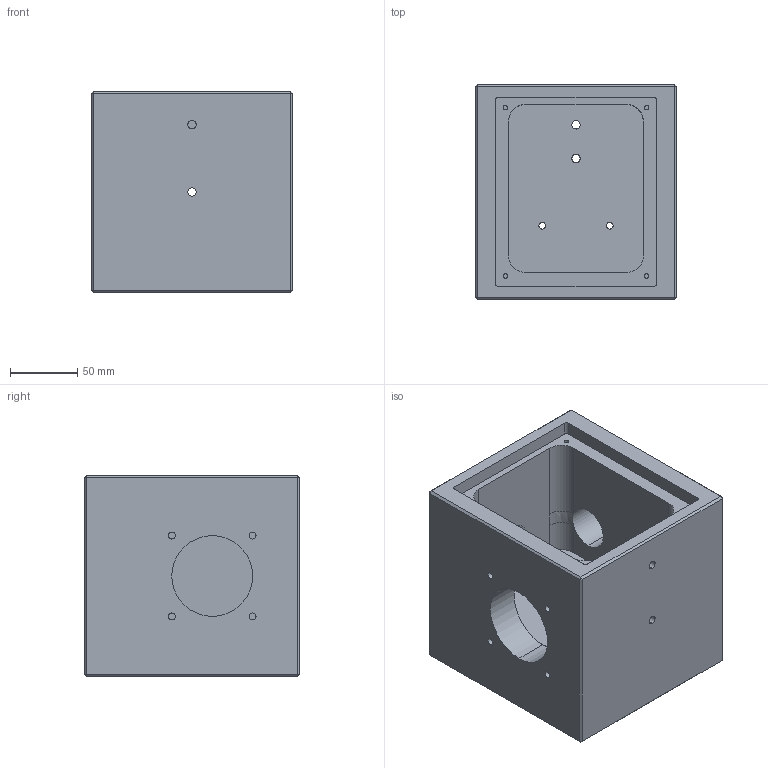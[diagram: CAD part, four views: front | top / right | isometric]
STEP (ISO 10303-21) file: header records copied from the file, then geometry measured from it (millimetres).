
FILE_DESCRIPTION (( 'STEP AP214' ), '1' );
FILE_NAME ('SetupVersion3.STEP', '2019-05-24T12:33:04', ( '' ), ( '' ), 'SwSTEP 2.0', 'SolidWorks 2017', '' );
FILE_SCHEMA (( 'AUTOMOTIVE_DESIGN' ));
Length unit declared in the file: millimetre
Products named in the file (1): SetupVersion3
Bounding box: 150 x 160 x 150 mm (x, y, z)
Volume: 2141777.2 mm3; surface area: 194660 mm2
Topology: 1 solids, 1 shells, 130 faces, 290 edges, 184 vertices
Faces by surface type: cylinder 71, plane 58, bspline 1
Entity records: 3735 total; most frequent: DIRECTION 693, CARTESIAN_POINT 642, ORIENTED_EDGE 580, EDGE_CURVE 290, AXIS2_PLACEMENT_3D 274, VERTEX_POINT 184, EDGE_LOOP 170, LINE 145
